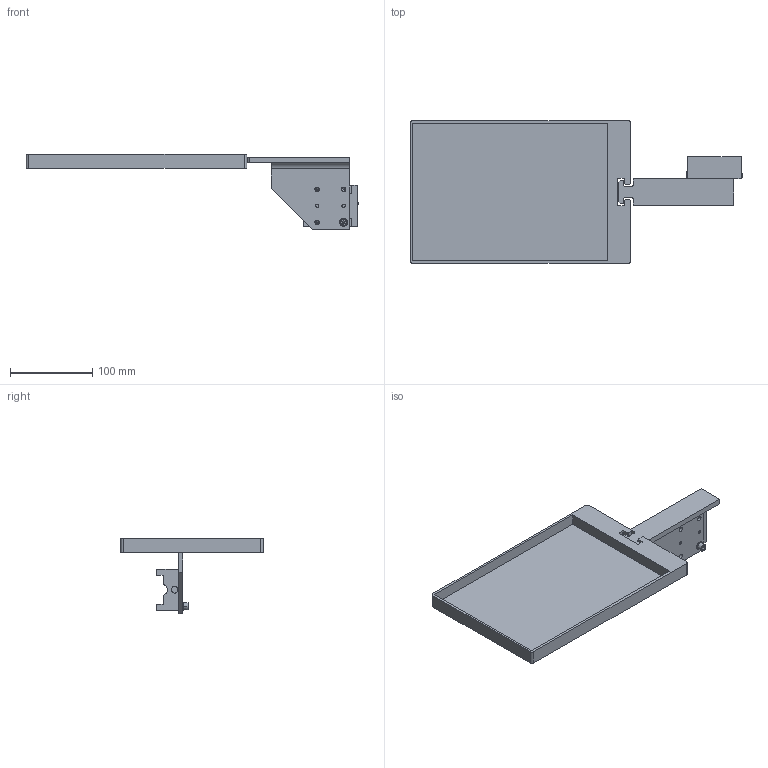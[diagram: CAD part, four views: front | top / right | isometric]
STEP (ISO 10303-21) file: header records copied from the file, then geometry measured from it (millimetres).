
FILE_DESCRIPTION (( 'STEP AP214' ), '1' );
FILE_NAME ('No000138_X+Work2.STEP', '2020-07-21T05:10:30', ( '' ), ( '' ), 'SwSTEP 2.0', 'SolidWorks 2017', '' );
FILE_SCHEMA (( 'AUTOMOTIVE_DESIGN' ));
Length unit declared in the file: millimetre
Products named in the file (8): 0138_203_Hook; No000138_X+Work2; 0138_005_SCBS5-12; 0138_Work-A; 0138_Z_MXY12-400B-M9NW_2; 0138_002_MS4-8; _0138_SA02; 0138_101_Air_Slide_Table_MXY12-400B-M9NW
Assembly tree (8 placements, depth 4):
  No000138_X+Work2
    _0138_SA02
      0138_002_MS4-8  x2
      0138_005_SCBS5-12
      0138_101_Air_Slide_Table_MXY12-400B-M9NW
        0138_Z_MXY12-400B-M9NW_2
      0138_203_Hook
    0138_Work-A
Bounding box: 403 x 173 x 91.5 mm (x, y, z)
Volume: 352043.1 mm3; surface area: 158648.3 mm2
Topology: 6 solids, 6 shells, 190 faces, 474 edges, 291 vertices
Faces by surface type: plane 89, cylinder 61, cone 36, bspline 4
Entity records: 5822 total; most frequent: DIRECTION 980, CARTESIAN_POINT 954, ORIENTED_EDGE 888, EDGE_CURVE 444, AXIS2_PLACEMENT_3D 342, LINE 296, VECTOR 296, VERTEX_POINT 284
